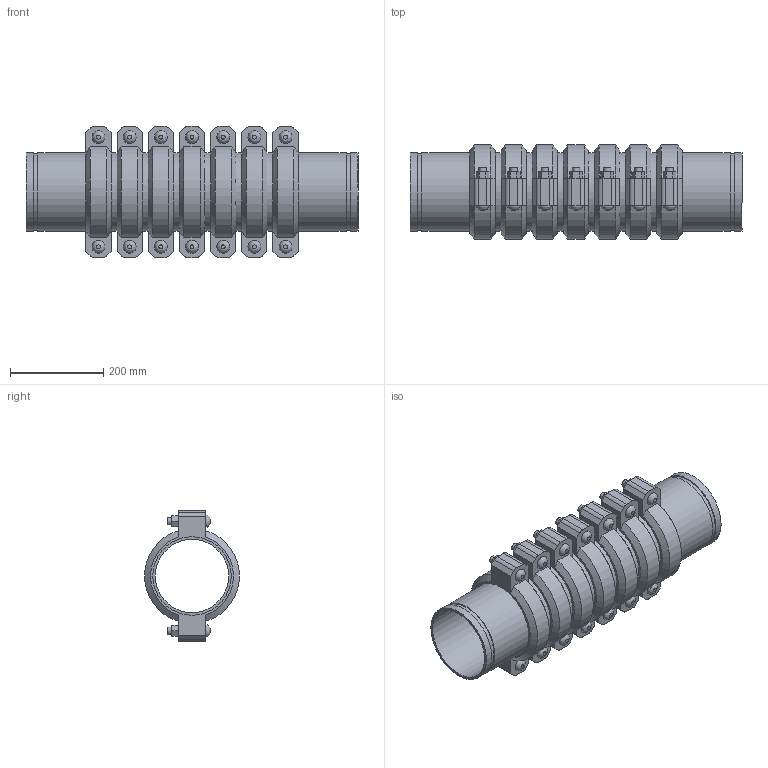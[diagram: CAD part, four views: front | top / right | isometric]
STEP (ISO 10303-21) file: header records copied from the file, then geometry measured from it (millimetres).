
FILE_DESCRIPTION(/* description */ ('VIC SS EXPANSION JOINT 7 COUPLINGS EXPANDED STYLE 155P (OGS) (POTABLE WATER) ','CAx-IF Rec.Pracs.---Representation and Presentation of Product Manufacturing Information (PMI)---4.0---2014-10-13'),/* implementation_level */ '2;1');
FILE_NAME(/* name */ 'C:\Users\kkamble\AppData\Roaming\Autodesk\ApplicationPlugins\Victaulic.Temp\A359\Victaulic_SS_Expansion Joint_Expanded_7 Couplings_Style 155P (OGS)-Potable Water_7 Coup_Expd_6 (150).stp',/* time_stamp */ '2021-07-16T16:55:24+05:00',/* author */ ('kkamble'),/* organization */ ('Victaulic'),/* preprocessor_version */ 'ST-DEVELOPER v17.2',/* originating_system */ 'Autodesk Inventor 2019',/* authorisation */ '');
FILE_SCHEMA (('AP242_MANAGED_MODEL_BASED_3D_ENGINEERING_MIM_LF { 1 0 10303 442 1 1 4 }'));
Length unit declared in the file: inch
Products named in the file (4): 155P-06.0; Nipple-06.0; Nipple-06.0_1; 075-06.0
Assembly tree (15 placements, depth 2):
  155P-06.0
    Nipple-06.0  x2
    Nipple-06.0_1  x6
    075-06.0  x7
Bounding box: 711.2 x 202.46 x 281.18 mm (x, y, z)
Volume: 7070147.7 mm3; surface area: 1575308 mm2
Topology: 15 solids, 29 shells, 495 faces, 1171 edges, 822 vertices
Faces by surface type: plane 300, cylinder 153, cone 28, bspline 14
Full cylindrical faces by diameter (mm): 15.875 x28, 17.424 x14, 157.15 x8, 161.925 x7, 163.957 x16, 168.275 x38
Entity records: 2824 total; most frequent: CARTESIAN_POINT 499, DIRECTION 473, ORIENTED_EDGE 386, EDGE_CURVE 193, AXIS2_PLACEMENT_3D 190, VERTEX_POINT 138, EDGE_LOOP 107, LINE 93
